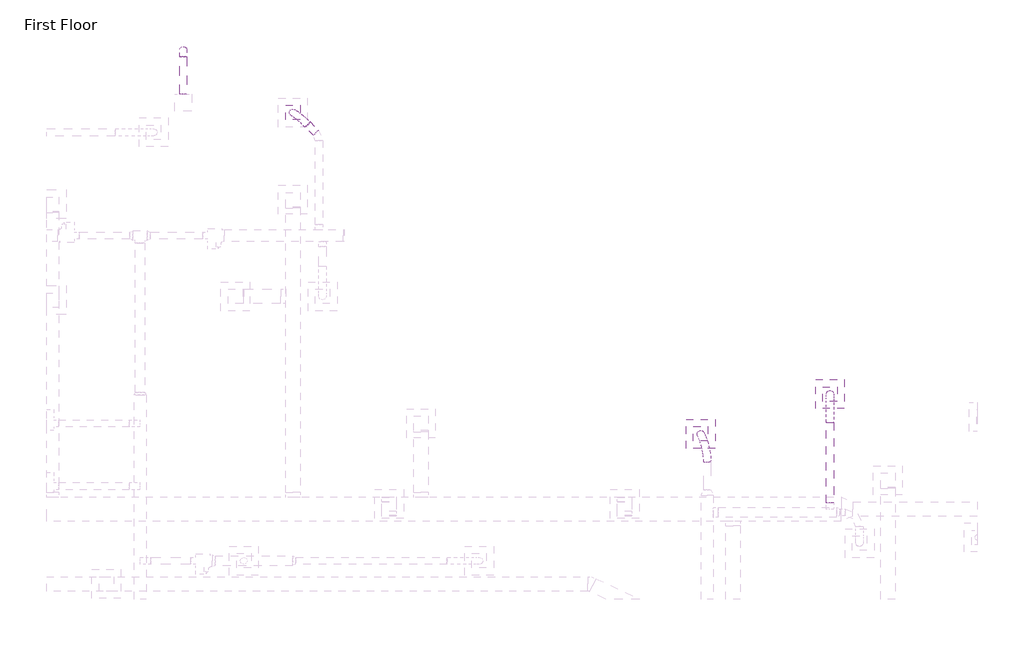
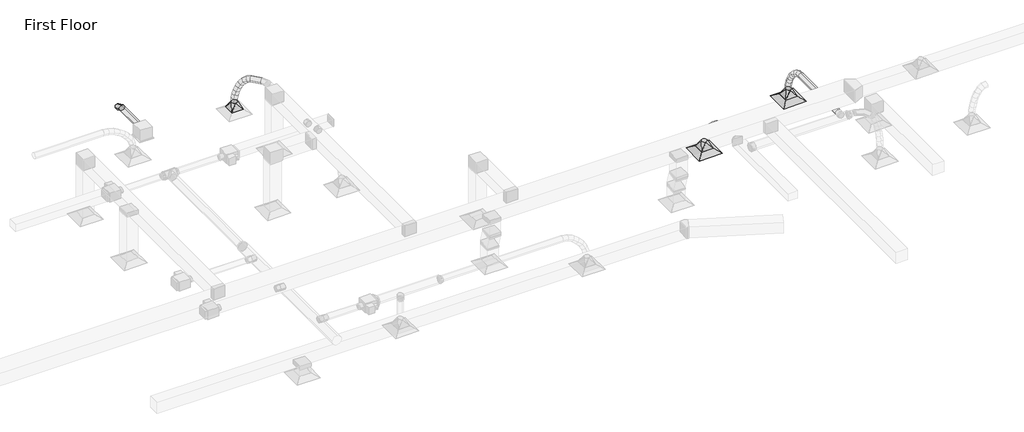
# One storey, part 59 of 61: 6 duct segments, 4 duct fittings, 2 air terminals.
"""IFC4 building model written with IfcOpenShell, lengths in millimetres."""

from ifc_helpers import new_model, si_unit, point, frame, frame_2d, origin, place, context, project, spatial, circle_curve, ellipse_curve, trimmed, segment, composite_curve, outline, extrude, transform, mapped, element, save
from ifc_brep_helpers import plane_surface, cylinder_surface, advanced_brep
from components import m_exhaust_grill_er_600_x_600_face_300_x_300_connection_ff221211, m_rectangular_to_round_transition_angle_45_degree_8f201c83, m_round_elbow_1_5_d_fa134dda

model = new_model("IFC4")

# Units and contexts
model_context = context("Model", 3, world=origin())
ifc_project = project(units=[si_unit("LENGTHUNIT", "METRE", prefix="MILLI")], contexts=[model_context])

# Site, building, storey
site = spatial("IfcSite", under=ifc_project)
building = spatial("IfcBuilding", under=site)
storey = spatial("IfcBuildingStorey", under=building, Name="First Floor", Elevation=0.0)

# Air terminals
placement = place(None, origin())
m_exhaust_grill_er_600_x_600_face_300_x_300_connection_shape = m_exhaust_grill_er_600_x_600_face_300_x_300_connection_ff221211(model_context)
element("IfcAirTerminal", 1, ObjectType="M_Supply Diffuser : SD-600 x 600 Face 300 x 300 Connection", at=placement, inside=storey, context=model_context, shape_type="MappedRepresentation", body=[
    mapped(m_exhaust_grill_er_600_x_600_face_300_x_300_connection_shape, transform((-16619.2800831, 49599.7694517, 2680.0), x_axis=(1.0, 0.0, 0.0), y_axis=(0.0, 1.0, 0.0), z_axis=(0.0, 0.0, 1.0))),
])
element("IfcAirTerminal", 2, ObjectType="M_Supply Diffuser : SD-600 x 600 Face 300 x 300 Connection", at=placement, inside=storey, context=model_context, shape_type="MappedRepresentation", body=[
    mapped(m_exhaust_grill_er_600_x_600_face_300_x_300_connection_shape, transform((-19299.8334733, 48772.6272628, 2680.0), x_axis=(1.0, 0.0, 0.0), y_axis=(0.0, 1.0, 0.0), z_axis=(0.0, 0.0, 1.0))),
])

# Duct fittings
m_rectangular_to_round_transition_angle_45_degree_shape = m_rectangular_to_round_transition_angle_45_degree_8f201c83(model_context)
element("IfcDuctFitting", 3, ObjectType="M_Rectangular to Round Transition - Angle : 45 Degree", at=placement, inside=storey, context=model_context, shape_type="MappedRepresentation", body=[
    mapped(m_rectangular_to_round_transition_angle_45_degree_shape, transform((-27752.9739655, 55437.1215859, 2781.6), x_axis=(0.0, 0.0, 1.0), y_axis=(1.0, 0.0, 0.0), z_axis=(0.0, 1.0, 0.0))),
])
element("IfcDuctFitting", 4, ObjectType="M_Rectangular to Round Transition - Angle : 45 Degree", at=placement, inside=storey, context=model_context, shape_type="MappedRepresentation", body=[
    mapped(m_rectangular_to_round_transition_angle_45_degree_shape, transform((-16619.2800831, 49599.7694517, 2781.6), x_axis=(0.0, 0.0, 1.0), y_axis=(1.0, 0.0, 0.0), z_axis=(0.0, 1.0, 0.0))),
])
element("IfcDuctFitting", 5, ObjectType="M_Rectangular to Round Transition - Angle : 45 Degree", at=placement, inside=storey, context=model_context, shape_type="MappedRepresentation", body=[
    mapped(m_rectangular_to_round_transition_angle_45_degree_shape, transform((-19299.8334733, 48772.6272628, 2781.6), x_axis=(0.0, 0.0, 1.0), y_axis=(1.0, 0.0, 0.0), z_axis=(0.0, 1.0, 0.0))),
])
m_round_elbow_1_5_d_shape = m_round_elbow_1_5_d_fa134dda(model_context)
element("IfcDuctFitting", 6, ObjectType="M_Round Elbow : 1.5 D", at=placement, inside=storey, context=model_context, shape_type="MappedRepresentation", body=[
    mapped(m_round_elbow_1_5_d_shape, transform((-30028.7764497, 56690.1436321, 2879.6), x_axis=(0.0, 1.0, 0.0), y_axis=(0.0, 0.0, -1.0), z_axis=(-1.0, 0.0, 0.0))),
])

# Duct segments
element("IfcDuctSegment", 7, ObjectType="Flex - Round", at=placement, inside=storey, context=model_context, shape_type="AdvancedBrep", body=[
    advanced_brep(
    [(-27502.9882977, 55140.6437558, 3619.1), (-27440.4934887, 55184.6113149, 3545.5387834), (-27399.088433, 55248.8325635, 3619.1), (-27461.5832421, 55204.8650044, 3692.6612166), (-27566.5843557, 55201.718667, 3601.5757013), (-27495.2331371, 55237.1809123, 3530.4549247), (-27464.5882598, 55311.7357721, 3601.0511057), (-27535.9394784, 55276.2735268, 3672.1718822), (-27801.8765428, 55380.2661316, 2963.6636355), (-27809.6866231, 55485.9823263, 2967.2814813), (-27704.0713881, 55493.9770402, 2961.6683988), (-27696.2613079, 55388.2608454, 2958.0505531), (-27623.5897364, 55252.1403473, 3553.6999365), (-27538.2151638, 55275.1988324, 3494.3566236), (-27524.4067097, 55364.645633, 3550.8127948), (-27609.7812823, 55341.5871478, 3610.1561077), (-27674.4128158, 55293.5537823, 3480.8180666), (-27580.4548446, 55309.618043, 3433.7836132), (-27576.6125789, 55407.1858409, 3475.9479616), (-27670.5705501, 55391.1215802, 3522.982415), (-27718.0150396, 55326.2857718, 3389.1154611), (-27619.0507199, 55338.5917897, 3352.6101772), (-27620.7215937, 55440.2982762, 3383.1794918), (-27719.6859135, 55427.9922583, 3419.6847758), (-27753.4267114, 55350.7713426, 3285.0414561), (-27651.400683, 55360.9603273, 3257.5344561), (-27656.1806228, 55464.8165924, 3278.9663046), (-27758.2066512, 55454.6276078, 3306.4733045), (-27779.7762271, 55367.548385, 3175.0438051), (-27675.7477541, 55376.4623899, 3155.8961317), (-27682.3384422, 55481.4715795, 3169.7689016), (-27786.3669153, 55472.5575746, 3188.916575), (-27796.2338651, 55377.1990504, 3065.4672873), (-27690.8795117, 55385.3355667, 3055.1474516), (-27698.5019458, 55490.9497662, 3062.1507589), (-27803.8562992, 55482.81325, 3072.4705946)],
    [
        (0, 1, circle_curve(frame((-27451.0383654, 55194.7381597, 3619.1), z_axis=(0.7074222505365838, -0.6793778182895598, 0.19493470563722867), x_axis=(-0.6926657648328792, -0.7212587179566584, 0.0)), 75.0)),
        (1, 2, circle_curve(frame((-27451.0383654, 55194.7381597, 3619.1), z_axis=(0.7074222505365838, -0.6793778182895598, 0.19493470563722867), x_axis=(-0.6926657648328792, -0.7212587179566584, 0.0)), 75.0)),
        (2, 3, circle_curve(frame((-27451.0383654, 55194.7381597, 3619.1), z_axis=(0.7074222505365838, -0.6793778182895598, 0.19493470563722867), x_axis=(-0.6926657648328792, -0.7212587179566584, 0.0)), 75.0)),
        (3, 0, circle_curve(frame((-27451.0383654, 55194.7381597, 3619.1), z_axis=(0.7074222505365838, -0.6793778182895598, 0.19493470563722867), x_axis=(-0.6926657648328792, -0.7212587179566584, 0.0)), 75.0)),
        (0, 4),
        (4, 5, ellipse_curve(frame((-27515.5863077, 55256.7272195, 3601.3134035), z_axis=(0.6821907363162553, -0.6306903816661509, 0.36992626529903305), x_axis=(0.20098712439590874, -0.3246931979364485, -0.9242177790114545)), 76.2826602, 75.0)),
        (5, 1),
        (5, 6, ellipse_curve(frame((-27515.5863077, 55256.7272195, 3601.3134035), z_axis=(0.6821907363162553, -0.6306903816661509, 0.36992626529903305), x_axis=(0.20098712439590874, -0.3246931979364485, -0.9242177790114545)), 76.2826602, 75.0)),
        (6, 2),
        (6, 7, ellipse_curve(frame((-27515.5863077, 55256.7272195, 3601.3134035), z_axis=(0.6821907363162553, -0.6306903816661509, 0.36992626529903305), x_axis=(0.20098712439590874, -0.3246931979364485, -0.9242177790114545)), 76.2826602, 75.0)),
        (7, 3),
        (7, 4, ellipse_curve(frame((-27515.5863077, 55256.7272195, 3601.3134035), z_axis=(0.6821907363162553, -0.6306903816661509, 0.36992626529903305), x_axis=(0.20098712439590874, -0.3246931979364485, -0.9242177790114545)), 76.2826602, 75.0)),
        (8, 9, circle_curve(frame((-27752.9739655, 55437.1215859, 2962.6660172), z_axis=(-0.05531709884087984, 0.03006764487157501, -0.9980160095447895), x_axis=(-0.6520343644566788, -0.758072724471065, 0.013301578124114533)), 75.0)),
        (9, 10, circle_curve(frame((-27752.9739655, 55437.1215859, 2962.6660172), z_axis=(-0.05531709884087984, 0.03006764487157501, -0.9980160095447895), x_axis=(-0.6520343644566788, -0.758072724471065, 0.013301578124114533)), 75.0)),
        (10, 11, circle_curve(frame((-27752.9739655, 55437.1215859, 2962.6660172), z_axis=(-0.05531709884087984, 0.03006764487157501, -0.9980160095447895), x_axis=(-0.6520343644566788, -0.758072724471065, 0.013301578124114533)), 75.0)),
        (11, 8, circle_curve(frame((-27752.9739655, 55437.1215859, 2962.6660172), z_axis=(-0.05531709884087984, 0.03006764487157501, -0.9980160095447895), x_axis=(-0.6520343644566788, -0.758072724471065, 0.013301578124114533)), 75.0)),
        (4, 12),
        (12, 13, ellipse_curve(frame((-27573.998223, 55308.3929901, 3552.2563656), z_axis=(0.581860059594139, -0.49642764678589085, 0.644203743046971), x_axis=(0.4164652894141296, -0.4984931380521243, -0.7603033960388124)), 75.7325656, 75.0)),
        (13, 5),
        (13, 14, ellipse_curve(frame((-27573.998223, 55308.3929901, 3552.2563656), z_axis=(0.581860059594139, -0.49642764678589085, 0.644203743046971), x_axis=(0.4164652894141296, -0.4984931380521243, -0.7603033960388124)), 75.7325656, 75.0)),
        (14, 6),
        (14, 15, ellipse_curve(frame((-27573.998223, 55308.3929901, 3552.2563656), z_axis=(0.581860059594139, -0.49642764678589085, 0.644203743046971), x_axis=(0.4164652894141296, -0.4984931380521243, -0.7603033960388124)), 75.7325656, 75.0)),
        (15, 7),
        (15, 12, ellipse_curve(frame((-27573.998223, 55308.3929901, 3552.2563656), z_axis=(0.581860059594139, -0.49642764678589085, 0.644203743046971), x_axis=(0.4164652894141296, -0.4984931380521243, -0.7603033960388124)), 75.7325656, 75.0)),
        (12, 16),
        (16, 17, ellipse_curve(frame((-27625.5126973, 55350.3698116, 3478.3830141), z_axis=(0.4658416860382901, -0.36641827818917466, 0.8054372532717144), x_axis=(0.5564729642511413, -0.5864000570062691, -0.5886194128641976)), 75.3673375, 75.0)),
        (17, 13),
        (17, 18, ellipse_curve(frame((-27625.5126973, 55350.3698116, 3478.3830141), z_axis=(0.4658416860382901, -0.36641827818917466, 0.8054372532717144), x_axis=(0.5564729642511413, -0.5864000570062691, -0.5886194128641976)), 75.3673375, 75.0)),
        (18, 14),
        (18, 19, ellipse_curve(frame((-27625.5126973, 55350.3698116, 3478.3830141), z_axis=(0.4658416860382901, -0.36641827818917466, 0.8054372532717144), x_axis=(0.5564729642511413, -0.5864000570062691, -0.5886194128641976)), 75.3673375, 75.0)),
        (19, 15),
        (19, 16, ellipse_curve(frame((-27625.5126973, 55350.3698116, 3478.3830141), z_axis=(0.4658416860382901, -0.36641827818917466, 0.8054372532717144), x_axis=(0.5564729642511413, -0.5864000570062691, -0.5886194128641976)), 75.3673375, 75.0)),
        (16, 20),
        (20, 21, ellipse_curve(frame((-27669.3683167, 55383.292024, 3386.1474765), z_axis=(0.3625103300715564, -0.2627972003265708, 0.8941609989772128), x_axis=(0.6499546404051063, -0.6163208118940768, -0.4446432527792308)), 75.1980539, 75.0)),
        (21, 17),
        (21, 22, ellipse_curve(frame((-27669.3683167, 55383.292024, 3386.1474765), z_axis=(0.3625103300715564, -0.2627972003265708, 0.8941609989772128), x_axis=(0.6499546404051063, -0.6163208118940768, -0.4446432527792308)), 75.1980539, 75.0)),
        (22, 18),
        (22, 23, ellipse_curve(frame((-27669.3683167, 55383.292024, 3386.1474765), z_axis=(0.3625103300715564, -0.2627972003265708, 0.8941609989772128), x_axis=(0.6499546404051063, -0.6163208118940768, -0.4446432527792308)), 75.1980539, 75.0)),
        (23, 19),
        (23, 20, ellipse_curve(frame((-27669.3683167, 55383.292024, 3386.1474765), z_axis=(0.3625103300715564, -0.2627972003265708, 0.8941609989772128), x_axis=(0.6499546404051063, -0.6163208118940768, -0.4446432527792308)), 75.1980539, 75.0)),
        (20, 24),
        (24, 25, ellipse_curve(frame((-27704.8036671, 55407.7939675, 3282.0038803), z_axis=(0.27288487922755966, -0.1823695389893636, 0.9446031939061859), x_axis=(0.7231677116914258, -0.6086658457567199, -0.3264266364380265)), 75.1267485, 75.0)),
        (25, 21),
        (25, 26, ellipse_curve(frame((-27704.8036671, 55407.7939675, 3282.0038803), z_axis=(0.27288487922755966, -0.1823695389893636, 0.9446031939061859), x_axis=(0.7231677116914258, -0.6086658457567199, -0.3264266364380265)), 75.1267485, 75.0)),
        (26, 22),
        (26, 27, ellipse_curve(frame((-27704.8036671, 55407.7939675, 3282.0038803), z_axis=(0.27288487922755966, -0.1823695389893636, 0.9446031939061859), x_axis=(0.7231677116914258, -0.6086658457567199, -0.3264266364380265)), 75.1267485, 75.0)),
        (27, 23),
        (27, 24, ellipse_curve(frame((-27704.8036671, 55407.7939675, 3282.0038803), z_axis=(0.27288487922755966, -0.1823695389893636, 0.9446031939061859), x_axis=(0.7231677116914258, -0.6086658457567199, -0.3264266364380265)), 75.1267485, 75.0)),
        (24, 28),
        (28, 29, ellipse_curve(frame((-27731.0573347, 55424.5099823, 3172.4063534), z_axis=(0.1894599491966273, -0.1169035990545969, 0.9749043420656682), x_axis=(0.7886571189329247, -0.5733483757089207, -0.22201709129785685)), 75.1027193, 75.0)),
        (29, 25),
        (29, 30, ellipse_curve(frame((-27731.0573347, 55424.5099823, 3172.4063534), z_axis=(0.1894599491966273, -0.1169035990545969, 0.9749043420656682), x_axis=(0.7886571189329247, -0.5733483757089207, -0.22201709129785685)), 75.1027193, 75.0)),
        (30, 26),
        (30, 31, ellipse_curve(frame((-27731.0573347, 55424.5099823, 3172.4063534), z_axis=(0.1894599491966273, -0.1169035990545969, 0.9749043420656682), x_axis=(0.7886571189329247, -0.5733483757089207, -0.22201709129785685)), 75.1027193, 75.0)),
        (31, 27),
        (31, 28, ellipse_curve(frame((-27731.0573347, 55424.5099823, 3172.4063534), z_axis=(0.1894599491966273, -0.1169035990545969, 0.9749043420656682), x_axis=(0.7886571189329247, -0.5733483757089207, -0.22201709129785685)), 75.1027193, 75.0)),
        (28, 32),
        (32, 33, ellipse_curve(frame((-27747.3679055, 55434.0744083, 3063.8090231), z_axis=(0.1017944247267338, -0.05850490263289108, 0.9930836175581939), x_axis=(0.847059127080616, -0.5183784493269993, -0.11736532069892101)), 75.1124113, 75.0)),
        (33, 29),
        (33, 34, ellipse_curve(frame((-27747.3679055, 55434.0744083, 3063.8090231), z_axis=(0.1017944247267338, -0.05850490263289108, 0.9930836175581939), x_axis=(0.847059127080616, -0.5183784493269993, -0.11736532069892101)), 75.1124113, 75.0)),
        (34, 30),
        (34, 35, ellipse_curve(frame((-27747.3679055, 55434.0744083, 3063.8090231), z_axis=(0.1017944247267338, -0.05850490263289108, 0.9930836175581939), x_axis=(0.847059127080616, -0.5183784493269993, -0.11736532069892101)), 75.1124113, 75.0)),
        (35, 31),
        (35, 32, ellipse_curve(frame((-27747.3679055, 55434.0744083, 3063.8090231), z_axis=(0.1017944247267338, -0.05850490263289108, 0.9930836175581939), x_axis=(0.847059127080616, -0.5183784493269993, -0.11736532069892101)), 75.1124113, 75.0)),
        (32, 8),
        (11, 33),
        (10, 34),
        (9, 35),
    ],
    [
        plane_surface(frame((-27451.0383654, 55215.4233401, 3691.1910765), z_axis=(0.7074222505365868, -0.6793778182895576, 0.1949347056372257), x_axis=(0.7067911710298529, 0.6799844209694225, -0.1951087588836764))),
        cylinder_surface(frame((-27451.0383654, 55194.7381597, 3619.1), z_axis=(0.7074222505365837, -0.6793778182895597, 0.19493470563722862), x_axis=(-0.6926657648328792, -0.7212587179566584, 0.0)), 75.0),
        plane_surface(frame((-27752.9739655, 55512.0875717, 2964.9245487), z_axis=(-0.055317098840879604, 0.030067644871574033, -0.9980160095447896), x_axis=(0.9984688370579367, 0.0016658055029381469, -0.05529201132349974))),
        cylinder_surface(frame((-27515.5863077, 55256.7272195, 3601.3134035), z_axis=(0.6340177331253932, -0.5607933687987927, 0.5324775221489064), x_axis=(-0.6685991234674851, -0.7435085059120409, 0.013050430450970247)), 75.0),
        cylinder_surface(frame((-27573.998223, 55308.3929901, 3552.2563656), z_axis=(0.5184456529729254, -0.42245797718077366, 0.7434671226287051), x_axis=(-0.6551863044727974, -0.7549519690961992, 0.027900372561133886)), 75.0),
        cylinder_surface(frame((-27625.5126973, 55350.3698116, 3478.3830141), z_axis=(0.40869673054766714, -0.30680676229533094, 0.8595560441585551), x_axis=(-0.6494910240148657, -0.7594317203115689, 0.03774747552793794)), 75.0),
        cylinder_surface(frame((-27669.3683167, 55383.292024, 3386.1474765), z_axis=(0.3144143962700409, -0.21740334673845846, 0.9240559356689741), x_axis=(-0.6479551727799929, -0.760545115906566, 0.041535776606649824)), 75.0),
        cylinder_surface(frame((-27704.8036671, 55407.7939675, 3282.0038803), z_axis=(0.23043457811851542, -0.14672036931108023, 0.9619631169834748), x_axis=(-0.6485652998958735, -0.7601373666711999, 0.03942379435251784)), 75.0),
        cylinder_surface(frame((-27731.0573347, 55424.5099823, 3172.4063534), z_axis=(0.1479670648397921, -0.08676704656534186, 0.9851787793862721), x_axis=(-0.6502401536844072, -0.7591039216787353, 0.030805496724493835)), 75.0),
        cylinder_surface(frame((-27747.3679055, 55434.0744083, 3063.8090231), z_axis=(0.05531709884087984, -0.03006764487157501, 0.9980160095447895), x_axis=(-0.6520343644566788, -0.758072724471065, 0.013301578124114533)), 75.0),
    ],
    [
        (0, [[1, 2, 3, 4]]),
        (1, [[-1, 5, 6, 7]]),
        (1, [[-2, -7, 8, 9]]),
        (1, [[-3, -9, 10, 11]]),
        (1, [[-4, -11, 12, -5]]),
        (2, [[13, 14, 15, 16]]),
        (3, [[-6, 17, 18, 19]]),
        (3, [[-8, -19, 20, 21]]),
        (3, [[-10, -21, 22, 23]]),
        (3, [[-12, -23, 24, -17]]),
        (4, [[-18, 25, 26, 27]]),
        (4, [[-20, -27, 28, 29]]),
        (4, [[-22, -29, 30, 31]]),
        (4, [[-24, -31, 32, -25]]),
        (5, [[-26, 33, 34, 35]]),
        (5, [[-28, -35, 36, 37]]),
        (5, [[-30, -37, 38, 39]]),
        (5, [[-32, -39, 40, -33]]),
        (6, [[-34, 41, 42, 43]]),
        (6, [[-36, -43, 44, 45]]),
        (6, [[-38, -45, 46, 47]]),
        (6, [[-40, -47, 48, -41]]),
        (7, [[-42, 49, 50, 51]]),
        (7, [[-44, -51, 52, 53]]),
        (7, [[-46, -53, 54, 55]]),
        (7, [[-48, -55, 56, -49]]),
        (8, [[-50, 57, 58, 59]]),
        (8, [[-52, -59, 60, 61]]),
        (8, [[-54, -61, 62, 63]]),
        (8, [[-56, -63, 64, -57]]),
        (9, [[-58, 65, -16, 66]]),
        (9, [[-60, -66, -15, 67]]),
        (9, [[-62, -67, -14, 68]]),
        (9, [[-64, -68, -13, -65]]),
    ],
),
])
element("IfcDuctSegment", 8, ObjectType="Flex - Round", at=placement, inside=storey, context=model_context, shape_type="AdvancedBrep", body=[
    advanced_brep(
    [(-16694.2800831, 49011.7457898, 3669.2), (-16619.2800831, 49000.1049996, 3595.1088939), (-16544.2800831, 49011.7457898, 3669.2), (-16619.2800831, 49023.3865799, 3743.2911061), (-16694.2800831, 49124.9844856, 3651.4085542), (-16619.2800831, 49103.114942, 3578.924534), (-16544.2800831, 49124.9844856, 3651.4085542), (-16619.2800831, 49146.8540292, 3723.8925744), (-16694.2800831, 49599.7694517, 2962.6660172), (-16619.2800831, 49674.3412426, 2970.6690172), (-16544.2800831, 49599.7694517, 2962.6660172), (-16619.2800831, 49525.1976609, 2954.6630171), (-16694.2800831, 49232.8895461, 3601.8924182), (-16619.2800831, 49194.1396353, 3537.1545644), (-16544.2800831, 49232.8895461, 3601.8924182), (-16619.2800831, 49271.6394568, 3666.630272), (-16694.2800831, 49332.4512548, 3526.4388939), (-16619.2800831, 49281.8444933, 3470.6868359), (-16544.2800831, 49332.4512548, 3526.4388939), (-16619.2800831, 49383.0580163, 3582.190952), (-16694.2800831, 49420.6598955, 3430.8352834), (-16619.2800831, 49361.6185058, 3384.2249704), (-16544.2800831, 49420.6598955, 3430.8352834), (-16619.2800831, 49479.7012853, 3477.4455963), (-16694.2800831, 49494.5057519, 3320.8688884), (-16619.2800831, 49429.168174, 3283.634445), (-16544.2800831, 49494.5057519, 3320.8688884), (-16619.2800831, 49559.8433298, 3358.1033319), (-16694.2800831, 49550.9791076, 3202.3270111), (-16619.2800831, 49480.757665, 3175.344172), (-16544.2800831, 49550.9791076, 3202.3270111), (-16619.2800831, 49621.2005502, 3229.3098502), (-16694.2800831, 49587.0702463, 3080.9969534), (-16619.2800831, 49513.2296208, 3066.1809697), (-16544.2800831, 49587.0702463, 3080.9969534), (-16619.2800831, 49660.9108718, 3095.8129371)],
    [
        (0, 1, circle_curve(frame((-16619.2800831, 49011.7457898, 3669.2), z_axis=(0.0, -0.9878814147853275, 0.15521053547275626), x_axis=(-1.0, 0.0, 0.0)), 75.0)),
        (1, 2, circle_curve(frame((-16619.2800831, 49011.7457898, 3669.2), z_axis=(0.0, -0.9878814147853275, 0.15521053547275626), x_axis=(-1.0, 0.0, 0.0)), 75.0)),
        (2, 3, circle_curve(frame((-16619.2800831, 49011.7457898, 3669.2), z_axis=(0.0, -0.9878814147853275, 0.15521053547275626), x_axis=(-1.0, 0.0, 0.0)), 75.0)),
        (3, 0, circle_curve(frame((-16619.2800831, 49011.7457898, 3669.2), z_axis=(0.0, -0.9878814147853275, 0.15521053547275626), x_axis=(-1.0, 0.0, 0.0)), 75.0)),
        (0, 4),
        (4, 5, ellipse_curve(frame((-16619.2800831, 49124.9844856, 3651.4085542), z_axis=(0.0, -0.957373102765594, 0.2888541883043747), x_axis=(0.0, -0.28885418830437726, -0.9573731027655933)), 75.7113606, 75.0)),
        (5, 1),
        (5, 6, ellipse_curve(frame((-16619.2800831, 49124.9844856, 3651.4085542), z_axis=(0.0, -0.957373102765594, 0.2888541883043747), x_axis=(0.0, -0.28885418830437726, -0.9573731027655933)), 75.7113606, 75.0)),
        (6, 2),
        (6, 7, ellipse_curve(frame((-16619.2800831, 49124.9844856, 3651.4085542), z_axis=(0.0, -0.957373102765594, 0.2888541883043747), x_axis=(0.0, -0.28885418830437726, -0.9573731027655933)), 75.7113606, 75.0)),
        (7, 3),
        (7, 4, ellipse_curve(frame((-16619.2800831, 49124.9844856, 3651.4085542), z_axis=(0.0, -0.957373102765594, 0.2888541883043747), x_axis=(0.0, -0.28885418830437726, -0.9573731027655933)), 75.7113606, 75.0)),
        (8, 9, circle_curve(frame((-16619.2800831, 49599.7694517, 2962.6660172), z_axis=(0.0, 0.10670666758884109, -0.994290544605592), x_axis=(-1.0, 0.0, 0.0)), 75.0)),
        (9, 10, circle_curve(frame((-16619.2800831, 49599.7694517, 2962.6660172), z_axis=(0.0, 0.10670666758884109, -0.994290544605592), x_axis=(-1.0, 0.0, 0.0)), 75.0)),
        (10, 11, circle_curve(frame((-16619.2800831, 49599.7694517, 2962.6660172), z_axis=(0.0, 0.10670666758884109, -0.994290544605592), x_axis=(-1.0, 0.0, 0.0)), 75.0)),
        (11, 8, circle_curve(frame((-16619.2800831, 49599.7694517, 2962.6660172), z_axis=(0.0, 0.10670666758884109, -0.994290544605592), x_axis=(-1.0, 0.0, 0.0)), 75.0)),
        (4, 12),
        (12, 13, ellipse_curve(frame((-16619.2800831, 49232.8895461, 3601.8924182), z_axis=(0.0, -0.8580350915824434, 0.5135910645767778), x_axis=(0.0, -0.5135910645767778, -0.8580350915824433)), 75.4489582, 75.0)),
        (13, 5),
        (13, 14, ellipse_curve(frame((-16619.2800831, 49232.8895461, 3601.8924182), z_axis=(0.0, -0.8580350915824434, 0.5135910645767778), x_axis=(0.0, -0.5135910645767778, -0.8580350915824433)), 75.4489582, 75.0)),
        (14, 6),
        (14, 15, ellipse_curve(frame((-16619.2800831, 49232.8895461, 3601.8924182), z_axis=(0.0, -0.8580350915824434, 0.5135910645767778), x_axis=(0.0, -0.5135910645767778, -0.8580350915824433)), 75.4489582, 75.0)),
        (15, 7),
        (15, 12, ellipse_curve(frame((-16619.2800831, 49232.8895461, 3601.8924182), z_axis=(0.0, -0.8580350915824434, 0.5135910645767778), x_axis=(0.0, -0.5135910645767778, -0.8580350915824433)), 75.4489582, 75.0)),
        (12, 16),
        (16, 17, ellipse_curve(frame((-16619.2800831, 49332.4512548, 3526.4388939), z_axis=(0.0, -0.740448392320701, 0.6721132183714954), x_axis=(0.0, -0.6721132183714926, -0.7404483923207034)), 75.2949951, 75.0)),
        (17, 13),
        (17, 18, ellipse_curve(frame((-16619.2800831, 49332.4512548, 3526.4388939), z_axis=(0.0, -0.740448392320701, 0.6721132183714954), x_axis=(0.0, -0.6721132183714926, -0.7404483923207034)), 75.2949951, 75.0)),
        (18, 14),
        (18, 19, ellipse_curve(frame((-16619.2800831, 49332.4512548, 3526.4388939), z_axis=(0.0, -0.740448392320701, 0.6721132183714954), x_axis=(0.0, -0.6721132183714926, -0.7404483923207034)), 75.2949951, 75.0)),
        (19, 15),
        (19, 16, ellipse_curve(frame((-16619.2800831, 49332.4512548, 3526.4388939), z_axis=(0.0, -0.740448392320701, 0.6721132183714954), x_axis=(0.0, -0.6721132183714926, -0.7404483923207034)), 75.2949951, 75.0)),
        (16, 20),
        (20, 21, ellipse_curve(frame((-16619.2800831, 49420.6598955, 3430.8352834), z_axis=(0.0, -0.6196335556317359, 0.7848912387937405), x_axis=(0.0, -0.7848912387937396, -0.6196335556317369)), 75.2223835, 75.0)),
        (21, 17),
        (21, 22, ellipse_curve(frame((-16619.2800831, 49420.6598955, 3430.8352834), z_axis=(0.0, -0.6196335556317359, 0.7848912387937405), x_axis=(0.0, -0.7848912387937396, -0.6196335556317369)), 75.2223835, 75.0)),
        (22, 18),
        (22, 23, ellipse_curve(frame((-16619.2800831, 49420.6598955, 3430.8352834), z_axis=(0.0, -0.6196335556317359, 0.7848912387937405), x_axis=(0.0, -0.7848912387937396, -0.6196335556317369)), 75.2223835, 75.0)),
        (23, 19),
        (23, 20, ellipse_curve(frame((-16619.2800831, 49420.6598955, 3430.8352834), z_axis=(0.0, -0.6196335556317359, 0.7848912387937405), x_axis=(0.0, -0.7848912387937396, -0.6196335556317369)), 75.2223835, 75.0)),
        (20, 24),
        (24, 25, ellipse_curve(frame((-16619.2800831, 49494.5057519, 3320.8688884), z_axis=(0.0, -0.49512299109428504, 0.8688228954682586), x_axis=(0.0, -0.8688228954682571, -0.4951229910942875)), 75.2024126, 75.0)),
        (25, 21),
        (25, 26, ellipse_curve(frame((-16619.2800831, 49494.5057519, 3320.8688884), z_axis=(0.0, -0.49512299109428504, 0.8688228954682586), x_axis=(0.0, -0.8688228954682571, -0.4951229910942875)), 75.2024126, 75.0)),
        (26, 22),
        (26, 27, ellipse_curve(frame((-16619.2800831, 49494.5057519, 3320.8688884), z_axis=(0.0, -0.49512299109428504, 0.8688228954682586), x_axis=(0.0, -0.8688228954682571, -0.4951229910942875)), 75.2024126, 75.0)),
        (27, 23),
        (27, 24, ellipse_curve(frame((-16619.2800831, 49494.5057519, 3320.8688884), z_axis=(0.0, -0.49512299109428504, 0.8688228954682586), x_axis=(0.0, -0.8688228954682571, -0.4951229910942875)), 75.2024126, 75.0)),
        (24, 28),
        (28, 29, ellipse_curve(frame((-16619.2800831, 49550.9791076, 3202.3270111), z_axis=(0.0, -0.35868483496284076, 0.9334587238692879), x_axis=(0.0, -0.9334587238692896, -0.35868483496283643)), 75.2271534, 75.0)),
        (29, 25),
        (29, 30, ellipse_curve(frame((-16619.2800831, 49550.9791076, 3202.3270111), z_axis=(0.0, -0.35868483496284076, 0.9334587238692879), x_axis=(0.0, -0.9334587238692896, -0.35868483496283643)), 75.2271534, 75.0)),
        (30, 26),
        (30, 31, ellipse_curve(frame((-16619.2800831, 49550.9791076, 3202.3270111), z_axis=(0.0, -0.35868483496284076, 0.9334587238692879), x_axis=(0.0, -0.9334587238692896, -0.35868483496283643)), 75.2271534, 75.0)),
        (31, 27),
        (31, 28, ellipse_curve(frame((-16619.2800831, 49550.9791076, 3202.3270111), z_axis=(0.0, -0.35868483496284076, 0.9334587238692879), x_axis=(0.0, -0.9334587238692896, -0.35868483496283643)), 75.2271534, 75.0)),
        (28, 32),
        (32, 33, ellipse_curve(frame((-16619.2800831, 49587.0702463, 3080.9969534), z_axis=(0.0, -0.1967271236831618, 0.9804582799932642), x_axis=(0.0, -0.980458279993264, -0.19672712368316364)), 75.3123585, 75.0)),
        (33, 29),
        (33, 34, ellipse_curve(frame((-16619.2800831, 49587.0702463, 3080.9969534), z_axis=(0.0, -0.1967271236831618, 0.9804582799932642), x_axis=(0.0, -0.980458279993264, -0.19672712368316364)), 75.3123585, 75.0)),
        (34, 30),
        (34, 35, ellipse_curve(frame((-16619.2800831, 49587.0702463, 3080.9969534), z_axis=(0.0, -0.1967271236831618, 0.9804582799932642), x_axis=(0.0, -0.980458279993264, -0.19672712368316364)), 75.3123585, 75.0)),
        (35, 31),
        (35, 32, ellipse_curve(frame((-16619.2800831, 49587.0702463, 3080.9969534), z_axis=(0.0, -0.1967271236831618, 0.9804582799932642), x_axis=(0.0, -0.980458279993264, -0.19672712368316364)), 75.3123585, 75.0)),
        (32, 8),
        (11, 33),
        (10, 34),
        (9, 35),
    ],
    [
        plane_surface(frame((-16619.2800831, 49023.3865799, 3743.2911061), z_axis=(0.0, -0.9878814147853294, 0.15521053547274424), x_axis=(1.0, 0.0, 0.0))),
        cylinder_surface(frame((-16619.2800831, 49011.7457898, 3669.2), z_axis=(0.0, -0.9878814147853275, 0.15521053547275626), x_axis=(-1.0, 0.0, 0.0)), 75.0),
        plane_surface(frame((-16619.2800831, 49674.3412426, 2970.6690172), z_axis=(0.0, 0.10670666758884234, -0.9942905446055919), x_axis=(1.0, 0.0, 0.0))),
        cylinder_surface(frame((-16619.2800831, 49124.9844856, 3651.4085542), z_axis=(0.0, -0.9088744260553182, 0.4170698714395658), x_axis=(-1.0, 0.0, 0.0)), 75.0),
        cylinder_surface(frame((-16619.2800831, 49232.8895461, 3601.8924182), z_axis=(0.0, -0.7969842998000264, 0.6040000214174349), x_axis=(-1.0, 0.0, 0.0)), 75.0),
        cylinder_surface(frame((-16619.2800831, 49332.4512548, 3526.4388939), z_axis=(0.0, -0.6781105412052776, 0.734959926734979), x_axis=(-1.0, 0.0, 0.0)), 75.0),
        cylinder_surface(frame((-16619.2800831, 49420.6598955, 3430.8352834), z_axis=(0.0, -0.557492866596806, 0.8301817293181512), x_axis=(-1.0, 0.0, 0.0)), 75.0),
        cylinder_surface(frame((-16619.2800831, 49494.5057519, 3320.8688884), z_axis=(0.0, -0.43008779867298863, 0.9027870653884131), x_axis=(-1.0, 0.0, 0.0)), 75.0),
        cylinder_surface(frame((-16619.2800831, 49550.9791076, 3202.3270111), z_axis=(0.0, -0.2851157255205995, 0.9584931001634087), x_axis=(-1.0, 0.0, 0.0)), 75.0),
        cylinder_surface(frame((-16619.2800831, 49587.0702463, 3080.9969534), z_axis=(0.0, -0.10670666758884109, 0.994290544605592), x_axis=(-1.0, 0.0, 0.0)), 75.0),
    ],
    [
        (0, [[1, 2, 3, 4]]),
        (1, [[-1, 5, 6, 7]]),
        (1, [[-2, -7, 8, 9]]),
        (1, [[-3, -9, 10, 11]]),
        (1, [[-4, -11, 12, -5]]),
        (2, [[13, 14, 15, 16]]),
        (3, [[-6, 17, 18, 19]]),
        (3, [[-8, -19, 20, 21]]),
        (3, [[-10, -21, 22, 23]]),
        (3, [[-12, -23, 24, -17]]),
        (4, [[-18, 25, 26, 27]]),
        (4, [[-20, -27, 28, 29]]),
        (4, [[-22, -29, 30, 31]]),
        (4, [[-24, -31, 32, -25]]),
        (5, [[-26, 33, 34, 35]]),
        (5, [[-28, -35, 36, 37]]),
        (5, [[-30, -37, 38, 39]]),
        (5, [[-32, -39, 40, -33]]),
        (6, [[-34, 41, 42, 43]]),
        (6, [[-36, -43, 44, 45]]),
        (6, [[-38, -45, 46, 47]]),
        (6, [[-40, -47, 48, -41]]),
        (7, [[-42, 49, 50, 51]]),
        (7, [[-44, -51, 52, 53]]),
        (7, [[-46, -53, 54, 55]]),
        (7, [[-48, -55, 56, -49]]),
        (8, [[-50, 57, 58, 59]]),
        (8, [[-52, -59, 60, 61]]),
        (8, [[-54, -61, 62, 63]]),
        (8, [[-56, -63, 64, -57]]),
        (9, [[-58, 65, -16, 66]]),
        (9, [[-60, -66, -15, 67]]),
        (9, [[-62, -67, -14, 68]]),
        (9, [[-64, -68, -13, -65]]),
    ],
),
])
element("IfcDuctSegment", 9, ObjectType="Flex - Round", at=placement, inside=storey, context=model_context, shape_type="AdvancedBrep", body=[
    advanced_brep(
    [(-19238.2091548, 48188.1846375, 3669.2), (-19162.7122534, 48180.5143012, 3595.0961282), (-19088.4093401, 48195.9316049, 3669.2), (-19163.9062415, 48203.6019413, 3743.3038718), (-19243.9130288, 48298.478025, 3651.9726654), (-19168.0519772, 48283.7662712, 3578.9686315), (-19094.4380167, 48312.5055627, 3650.9916683), (-19170.2990683, 48327.2173165, 3723.9957022), (-19373.3569636, 48757.9699148, 2964.7775377), (-19314.1781383, 48845.775351, 2970.9477911), (-19226.3099829, 48787.2846107, 2960.5544966), (-19285.4888082, 48699.4791746, 2954.3842432), (-19258.6953367, 48401.0394906, 3604.8152041), (-19181.1181088, 48374.4206957, 3537.2859929), (-19110.5869788, 48424.5490432, 3599.4744044), (-19188.1642066, 48451.1678381, 3667.0036157), (-19279.9900954, 48496.8716831, 3531.5452902), (-19200.4195566, 48461.2824478, 3470.8745613), (-19133.0226361, 48525.5155886, 3522.2789454), (-19212.5931749, 48561.1048239, 3582.9496743), (-19304.7263022, 48582.4584443, 3437.3929363), (-19223.1346605, 48539.8762352, 3384.4150437), (-19158.4164185, 48613.3775482, 3425.6236895), (-19240.0080602, 48655.9597573, 3478.601582), (-19329.7062647, 48654.4906931, 3327.9148829), (-19246.0955683, 48606.0863354, 3283.7857698), (-19183.5664452, 48685.9001942, 3315.4003069), (-19267.1771416, 48734.3045519, 3359.52942), (-19351.6951683, 48709.8608001, 3208.6706649), (-19266.0755275, 48656.3977331, 3175.435911), (-19205.3079576, 48740.6473469, 3197.4976737), (-19290.9275985, 48794.1104139, 3230.7324276), (-19367.4195647, 48745.5154424, 3085.0646711), (-19279.9681053, 48687.8987766, 3066.2294367), (-19220.5148312, 48775.1285203, 3077.959812), (-19307.9662906, 48832.7451862, 3096.7950464)],
    [
        (0, 1, circle_curve(frame((-19163.3092474, 48192.0581212, 3669.2), z_axis=(0.05102935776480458, -0.9867330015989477, 0.15412328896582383), x_axis=(-0.9986654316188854, -0.05164644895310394, 0.0)), 75.0)),
        (1, 2, circle_curve(frame((-19163.3092474, 48192.0581212, 3669.2), z_axis=(0.05102935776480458, -0.9867330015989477, 0.15412328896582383), x_axis=(-0.9986654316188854, -0.05164644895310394, 0.0)), 75.0)),
        (2, 3, circle_curve(frame((-19163.3092474, 48192.0581212, 3669.2), z_axis=(0.05102935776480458, -0.9867330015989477, 0.15412328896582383), x_axis=(-0.9986654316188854, -0.05164644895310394, 0.0)), 75.0)),
        (3, 0, circle_curve(frame((-19163.3092474, 48192.0581212, 3669.2), z_axis=(0.05102935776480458, -0.9867330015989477, 0.15412328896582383), x_axis=(-0.9986654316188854, -0.05164644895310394, 0.0)), 75.0)),
        (0, 4),
        (4, 5, ellipse_curve(frame((-19169.1755228, 48305.4917939, 3651.4821668), z_axis=(0.09136887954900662, -0.9535329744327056, 0.2871003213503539), x_axis=(-0.27652672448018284, -0.3012622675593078, -0.9125645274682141)), 75.7733584, 75.0)),
        (5, 1),
        (5, 6, ellipse_curve(frame((-19169.1755228, 48305.4917939, 3651.4821668), z_axis=(0.09136887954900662, -0.9535329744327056, 0.2871003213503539), x_axis=(-0.27652672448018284, -0.3012622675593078, -0.9125645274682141)), 75.7733584, 75.0)),
        (6, 2),
        (6, 7, ellipse_curve(frame((-19169.1755228, 48305.4917939, 3651.4821668), z_axis=(0.09136887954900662, -0.9535329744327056, 0.2871003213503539), x_axis=(-0.27652672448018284, -0.3012622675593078, -0.9125645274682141)), 75.7733584, 75.0)),
        (7, 3),
        (7, 4, ellipse_curve(frame((-19169.1755228, 48305.4917939, 3651.4821668), z_axis=(0.09136887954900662, -0.9535329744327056, 0.2871003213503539), x_axis=(-0.27652672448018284, -0.3012622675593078, -0.9125645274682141)), 75.7733584, 75.0)),
        (8, 9, circle_curve(frame((-19299.8334733, 48772.6272628, 2962.6660172), z_axis=(-0.04903867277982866, 0.10286504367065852, -0.99348577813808), x_axis=(-0.9803132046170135, -0.1954313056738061, 0.028153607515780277)), 75.0)),
        (9, 10, circle_curve(frame((-19299.8334733, 48772.6272628, 2962.6660172), z_axis=(-0.04903867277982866, 0.10286504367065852, -0.99348577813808), x_axis=(-0.9803132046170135, -0.1954313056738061, 0.028153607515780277)), 75.0)),
        (10, 11, circle_curve(frame((-19299.8334733, 48772.6272628, 2962.6660172), z_axis=(-0.04903867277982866, 0.10286504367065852, -0.99348577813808), x_axis=(-0.9803132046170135, -0.1954313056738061, 0.028153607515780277)), 75.0)),
        (11, 8, circle_curve(frame((-19299.8334733, 48772.6272628, 2962.6660172), z_axis=(-0.04903867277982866, 0.10286504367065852, -0.99348577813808), x_axis=(-0.9803132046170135, -0.1954313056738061, 0.028153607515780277)), 75.0)),
        (4, 12),
        (12, 13, ellipse_curve(frame((-19184.6411577, 48412.7942669, 3602.1448043), z_axis=(0.15279489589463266, -0.8468826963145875, 0.5093558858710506), x_axis=(-0.19711380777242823, -0.5311677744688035, -0.8240187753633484)), 75.4714216, 75.0)),
        (13, 5),
        (13, 14, ellipse_curve(frame((-19184.6411577, 48412.7942669, 3602.1448043), z_axis=(0.15279489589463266, -0.8468826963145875, 0.5093558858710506), x_axis=(-0.19711380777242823, -0.5311677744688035, -0.8240187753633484)), 75.4714216, 75.0)),
        (14, 6),
        (14, 15, ellipse_curve(frame((-19184.6411577, 48412.7942669, 3602.1448043), z_axis=(0.15279489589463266, -0.8468826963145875, 0.5093558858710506), x_axis=(-0.19711380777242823, -0.5311677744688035, -0.8240187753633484)), 75.4714216, 75.0)),
        (15, 7),
        (15, 12, ellipse_curve(frame((-19184.6411577, 48412.7942669, 3602.1448043), z_axis=(0.15279489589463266, -0.8468826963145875, 0.5093558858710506), x_axis=(-0.19711380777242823, -0.5311677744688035, -0.8240187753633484)), 75.4714216, 75.0)),
        (12, 16),
        (16, 17, ellipse_curve(frame((-19206.5063658, 48511.1936359, 3526.9121178), z_axis=(0.18306124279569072, -0.7241686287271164, 0.6648822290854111), x_axis=(-0.09557828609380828, -0.6862169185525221, -0.7210902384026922)), 75.2982525, 75.0)),
        (17, 13),
        (17, 18, ellipse_curve(frame((-19206.5063658, 48511.1936359, 3526.9121178), z_axis=(0.18306124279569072, -0.7241686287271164, 0.6648822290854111), x_axis=(-0.09557828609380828, -0.6862169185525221, -0.7210902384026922)), 75.2982525, 75.0)),
        (18, 14),
        (18, 19, ellipse_curve(frame((-19206.5063658, 48511.1936359, 3526.9121178), z_axis=(0.18306124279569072, -0.7241686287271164, 0.6648822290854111), x_axis=(-0.09557828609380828, -0.6862169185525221, -0.7210902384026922)), 75.2982525, 75.0)),
        (19, 15),
        (19, 16, ellipse_curve(frame((-19206.5063658, 48511.1936359, 3526.9121178), z_axis=(0.18306124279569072, -0.7241686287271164, 0.6648822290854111), x_axis=(-0.09557828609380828, -0.6862169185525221, -0.7210902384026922)), 75.2982525, 75.0)),
        (16, 20),
        (20, 21, ellipse_curve(frame((-19231.5713604, 48597.9179963, 3431.5083129), z_axis=(0.18959363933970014, -0.601870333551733, 0.7757617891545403), x_axis=(0.023490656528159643, -0.7870853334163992, -0.6163966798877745)), 75.2201568, 75.0)),
        (21, 17),
        (21, 22, ellipse_curve(frame((-19231.5713604, 48597.9179963, 3431.5083129), z_axis=(0.18959363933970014, -0.601870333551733, 0.7757617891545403), x_axis=(0.023490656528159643, -0.7870853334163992, -0.6163966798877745)), 75.2201568, 75.0)),
        (22, 18),
        (22, 23, ellipse_curve(frame((-19231.5713604, 48597.9179963, 3431.5083129), z_axis=(0.18959363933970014, -0.601870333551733, 0.7757617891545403), x_axis=(0.023490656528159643, -0.7870853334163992, -0.6163966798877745)), 75.2201568, 75.0)),
        (23, 19),
        (23, 20, ellipse_curve(frame((-19231.5713604, 48597.9179963, 3431.5083129), z_axis=(0.18959363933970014, -0.601870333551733, 0.7757617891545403), x_axis=(0.023490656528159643, -0.7870853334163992, -0.6163966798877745)), 75.2201568, 75.0)),
        (20, 24),
        (24, 25, ellipse_curve(frame((-19256.6363549, 48670.1954436, 3321.6575949), z_axis=(0.17657589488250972, -0.47894615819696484, 0.8599020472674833), x_axis=(0.15204993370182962, -0.849869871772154, -0.5045810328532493)), 75.202165, 75.0)),
        (25, 21),
        (25, 26, ellipse_curve(frame((-19256.6363549, 48670.1954436, 3321.6575949), z_axis=(0.17657589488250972, -0.47894615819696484, 0.8599020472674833), x_axis=(0.15204993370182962, -0.849869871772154, -0.5045810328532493)), 75.202165, 75.0)),
        (26, 22),
        (26, 27, ellipse_curve(frame((-19256.6363549, 48670.1954436, 3321.6575949), z_axis=(0.17657589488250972, -0.47894615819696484, 0.8599020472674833), x_axis=(0.15204993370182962, -0.849869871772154, -0.5045810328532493)), 75.202165, 75.0)),
        (27, 23),
        (27, 24, ellipse_curve(frame((-19256.6363549, 48670.1954436, 3321.6575949), z_axis=(0.17657589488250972, -0.47894615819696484, 0.8599020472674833), x_axis=(0.15204993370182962, -0.849869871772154, -0.5045810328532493)), 75.202165, 75.0)),
        (24, 28),
        (28, 29, ellipse_curve(frame((-19278.501563, 48725.2540735, 3203.0841693), z_axis=(0.14359439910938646, -0.34633263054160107, 0.9270568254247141), x_axis=(0.27550439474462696, -0.8857432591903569, -0.3735722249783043)), 75.2362534, 75.0)),
        (29, 25),
        (29, 30, ellipse_curve(frame((-19278.501563, 48725.2540735, 3203.0841693), z_axis=(0.14359439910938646, -0.34633263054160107, 0.9270568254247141), x_axis=(0.27550439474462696, -0.8857432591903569, -0.3735722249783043)), 75.2362534, 75.0)),
        (30, 26),
        (30, 31, ellipse_curve(frame((-19278.501563, 48725.2540735, 3203.0841693), z_axis=(0.14359439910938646, -0.34633263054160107, 0.9270568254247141), x_axis=(0.27550439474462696, -0.8857432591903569, -0.3735722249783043)), 75.2362534, 75.0)),
        (31, 27),
        (31, 28, ellipse_curve(frame((-19278.501563, 48725.2540735, 3203.0841693), z_axis=(0.14359439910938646, -0.34633263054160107, 0.9270568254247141), x_axis=(0.27550439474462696, -0.8857432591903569, -0.3735722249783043)), 75.2362534, 75.0)),
        (28, 32),
        (32, 33, ellipse_curve(frame((-19293.9671979, 48760.3219814, 3081.5122416), z_axis=(0.08557405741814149, -0.1898533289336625, 0.9780760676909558), x_axis=(0.37851373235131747, -0.9018804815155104, -0.20818009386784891)), 75.3442954, 75.0)),
        (33, 29),
        (33, 34, ellipse_curve(frame((-19293.9671979, 48760.3219814, 3081.5122416), z_axis=(0.08557405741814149, -0.1898533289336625, 0.9780760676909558), x_axis=(0.37851373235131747, -0.9018804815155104, -0.20818009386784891)), 75.3442954, 75.0)),
        (34, 30),
        (34, 35, ellipse_curve(frame((-19293.9671979, 48760.3219814, 3081.5122416), z_axis=(0.08557405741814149, -0.1898533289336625, 0.9780760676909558), x_axis=(0.37851373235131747, -0.9018804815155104, -0.20818009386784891)), 75.3442954, 75.0)),
        (35, 31),
        (35, 32, ellipse_curve(frame((-19293.9671979, 48760.3219814, 3081.5122416), z_axis=(0.08557405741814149, -0.1898533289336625, 0.9780760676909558), x_axis=(0.37851373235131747, -0.9018804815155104, -0.20818009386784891)), 75.3442954, 75.0)),
        (32, 8),
        (11, 33),
        (10, 34),
        (9, 35),
    ],
    [
        plane_surface(frame((-19163.3092474, 48203.6324475, 3743.301518), z_axis=(0.051029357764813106, -0.9867330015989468, 0.15412328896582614), x_axis=(0.9986971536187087, 0.050418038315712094, -0.007875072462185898))),
        cylinder_surface(frame((-19163.3092474, 48192.0581212, 3669.2), z_axis=(0.05102935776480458, -0.9867330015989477, 0.15412328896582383), x_axis=(-0.9986654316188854, -0.05164644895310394, 0.0)), 75.0),
        plane_surface(frame((-19299.8334733, 48847.2284503, 2970.3901886), z_axis=(-0.04903867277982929, 0.10286504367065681, -0.9934857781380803), x_axis=(0.9987968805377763, 0.005050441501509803, -0.048777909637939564))),
        cylinder_surface(frame((-19169.1755228, 48305.4917939, 3651.4821668), z_axis=(0.1298433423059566, -0.9008690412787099, 0.41421694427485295), x_axis=(-0.9909903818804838, -0.13174388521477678, 0.024116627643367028)), 75.0),
        cylinder_surface(frame((-19184.6411577, 48412.7942669, 3602.1448043), z_axis=(0.17383762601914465, -0.7823164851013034, 0.5981315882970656), x_axis=(-0.982567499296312, -0.17842864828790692, 0.05219508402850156)), 75.0),
        cylinder_surface(frame((-19206.5063658, 48511.1936359, 3526.9121178), z_axis=(0.19083466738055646, -0.6602839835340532, 0.7263657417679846), x_axis=(-0.9767263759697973, -0.2015354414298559, 0.0734101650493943)), 75.0),
        cylinder_surface(frame((-19231.5713604, 48597.9179963, 3431.5083129), z_axis=(0.18724279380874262, -0.5399335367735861, 0.8206167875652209), x_axis=(-0.9740970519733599, -0.2098823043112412, 0.08416859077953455)), 75.0),
        cylinder_surface(frame((-19256.6363549, 48670.1954436, 3321.6575949), z_axis=(0.1649596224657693, -0.4153836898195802, 0.8945639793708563), x_axis=(-0.9744138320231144, -0.20902306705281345, 0.08262591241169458)), 75.0),
        cylinder_surface(frame((-19278.501563, 48725.2540735, 3203.0841693), z_axis=(0.12132735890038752, -0.2751064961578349, 0.9537274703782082), x_axis=(-0.9770186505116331, -0.20274055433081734, 0.06580899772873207)), 75.0),
        cylinder_surface(frame((-19293.9671979, 48760.3219814, 3081.5122416), z_axis=(0.04903867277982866, -0.10286504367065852, 0.99348577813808), x_axis=(-0.9803132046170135, -0.1954313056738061, 0.028153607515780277)), 75.0),
    ],
    [
        (0, [[1, 2, 3, 4]]),
        (1, [[-1, 5, 6, 7]]),
        (1, [[-2, -7, 8, 9]]),
        (1, [[-3, -9, 10, 11]]),
        (1, [[-4, -11, 12, -5]]),
        (2, [[13, 14, 15, 16]]),
        (3, [[-6, 17, 18, 19]]),
        (3, [[-8, -19, 20, 21]]),
        (3, [[-10, -21, 22, 23]]),
        (3, [[-12, -23, 24, -17]]),
        (4, [[-18, 25, 26, 27]]),
        (4, [[-20, -27, 28, 29]]),
        (4, [[-22, -29, 30, 31]]),
        (4, [[-24, -31, 32, -25]]),
        (5, [[-26, 33, 34, 35]]),
        (5, [[-28, -35, 36, 37]]),
        (5, [[-30, -37, 38, 39]]),
        (5, [[-32, -39, 40, -33]]),
        (6, [[-34, 41, 42, 43]]),
        (6, [[-36, -43, 44, 45]]),
        (6, [[-38, -45, 46, 47]]),
        (6, [[-40, -47, 48, -41]]),
        (7, [[-42, 49, 50, 51]]),
        (7, [[-44, -51, 52, 53]]),
        (7, [[-46, -53, 54, 55]]),
        (7, [[-48, -55, 56, -49]]),
        (8, [[-50, 57, 58, 59]]),
        (8, [[-52, -59, 60, 61]]),
        (8, [[-54, -61, 62, 63]]),
        (8, [[-56, -63, 64, -57]]),
        (9, [[-58, 65, -16, 66]]),
        (9, [[-60, -66, -15, 67]]),
        (9, [[-62, -67, -14, 68]]),
        (9, [[-64, -68, -13, -65]]),
    ],
),
])
element("IfcDuctSegment", 10, ObjectType="Taps", at=placement, inside=storey, context=model_context, shape_type="SweptSolid", body=[
    extrude(outline(composite_curve([segment(trimmed(circle_curve(frame_2d((2879.6, -30028.7764497)), 75.0), [point((2879.6, -29953.7764497))], [point((2954.6, -30028.7764497))], False, "CARTESIAN"), True, "CONTINUOUS"), segment(trimmed(circle_curve(frame_2d((2879.6, -30028.7764497)), 75.0), [point((2954.6, -30028.7764497))], [point((2879.6, -30103.7764497))], False, "CARTESIAN"), True, "CONTINUOUS"), segment(trimmed(circle_curve(frame_2d((2879.6, -30028.7764497)), 75.0), [point((2879.6, -30103.7764497))], [point((2804.6, -30028.7764497))], False, "CARTESIAN"), True, "CONTINUOUS"), segment(trimmed(circle_curve(frame_2d((2879.6, -30028.7764497)), 75.0), [point((2804.6, -30028.7764497))], [point((2879.6, -29953.7764497))], False, "CARTESIAN"), True, "CONTINUOUS")], self_intersect=False)), frame((0.0, 55820.2656702, 0.0), z_axis=(0.0, 1.0, 0.0), x_axis=(0.0, 0.0, 1.0)), (0.0, 0.0, 1.0), 776.6799103),
])
element("IfcDuctSegment", 11, ObjectType="Taps", at=placement, inside=storey, context=model_context, shape_type="SweptSolid", body=[
    extrude(outline(composite_curve([segment(trimmed(circle_curve(frame_2d((0.0, 75.0)), 75.0), [point((75.0, 75.0))], [point((0.0, 0.0))], False, "CARTESIAN"), True, "CONTINUOUS"), segment(trimmed(circle_curve(frame_2d((0.0, 75.0)), 75.0), [point((0.0, 0.0))], [point((-75.0, 75.0))], False, "CARTESIAN"), True, "CONTINUOUS"), segment(trimmed(circle_curve(frame_2d((0.0, 75.0)), 75.0), [point((-75.0, 75.0))], [point((0.0, 150.0))], False, "CARTESIAN"), True, "CONTINUOUS"), segment(trimmed(circle_curve(frame_2d((0.0, 75.0)), 75.0), [point((0.0, 150.0))], [point((75.0, 75.0))], False, "CARTESIAN"), True, "CONTINUOUS")], self_intersect=False)), frame((-27276.523034, 55020.2228283, 3694.1), z_axis=(-0.7071067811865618, 0.7071067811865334, 0.0), x_axis=(0.7071067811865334, 0.7071067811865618, 0.0)), (0.0, 0.0, 1.0), 246.8019485),
])
element("IfcDuctSegment", 12, ObjectType="Taps / Short Radius", at=placement, inside=storey, context=model_context, shape_type="SweptSolid", body=[
    extrude(outline(composite_curve([segment(trimmed(circle_curve(frame_2d((3669.2, -16619.2800831)), 75.0), [point((3669.2, -16544.2800831))], [point((3744.2, -16619.2800831))], False, "CARTESIAN"), True, "CONTINUOUS"), segment(trimmed(circle_curve(frame_2d((3669.2, -16619.2800831)), 75.0), [point((3744.2, -16619.2800831))], [point((3669.2, -16694.2800831))], False, "CARTESIAN"), True, "CONTINUOUS"), segment(trimmed(circle_curve(frame_2d((3669.2, -16619.2800831)), 75.0), [point((3669.2, -16694.2800831))], [point((3594.2, -16619.2800831))], False, "CARTESIAN"), True, "CONTINUOUS"), segment(trimmed(circle_curve(frame_2d((3669.2, -16619.2800831)), 75.0), [point((3594.2, -16619.2800831))], [point((3669.2, -16544.2800831))], False, "CARTESIAN"), True, "CONTINUOUS")], self_intersect=False)), frame((0.0, 47345.4097109, 0.0), z_axis=(0.0, 1.0, 0.0), x_axis=(0.0, 0.0, 1.0)), (0.0, 0.0, 1.0), 1666.3360788),
])

save(model, "model.ifc")
